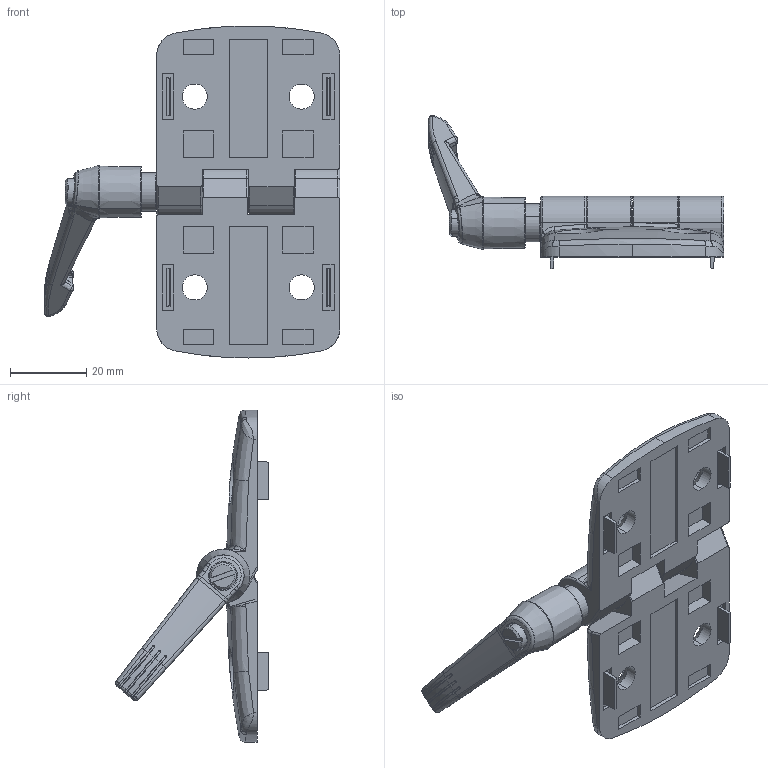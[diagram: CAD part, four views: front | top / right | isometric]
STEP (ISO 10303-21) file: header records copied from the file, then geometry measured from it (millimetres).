
FILE_DESCRIPTION (( 'STEP AP214' ), '1' );
FILE_NAME ('095kf4545f10.STEP', '2014-08-13T14:05:23', ( '' ), ( '' ), 'SwSTEP 2.0', 'SolidWorks 2014', '' );
FILE_SCHEMA (( 'AUTOMOTIVE_DESIGN' ));
Length unit declared in the file: millimetre
Products named in the file (7): 4din912m650m_4 din 912 m06 50 m; 12843f06k_M5; zahnring-1_m5; griff-1-m5; 095k45f00_095 k 45 f10; 095k45f00_095 kf 45 f10; 095kf4545f10
Assembly tree (6 placements, depth 3):
  095kf4545f10
    095k45f00_095 kf 45 f10
    095k45f00_095 k 45 f10
    12843f06k_M5
      griff-1-m5
      zahnring-1_m5
    4din912m650m_4 din 912 m06 50 m
Bounding box: 77.49 x 40.1 x 87 mm (x, y, z)
Volume: 30769.5 mm3; surface area: 18371 mm2
Topology: 5 solids, 5 shells, 490 faces, 1182 edges, 712 vertices
Faces by surface type: plane 154, bspline 140, cylinder 91, torus 54, cone 37, sphere 14
Entity records: 18668 total; most frequent: CARTESIAN_POINT 8136, ORIENTED_EDGE 2332, DIRECTION 1877, EDGE_CURVE 1166, AXIS2_PLACEMENT_3D 730, VERTEX_POINT 708, EDGE_LOOP 530, FACE_OUTER_BOUND 490
